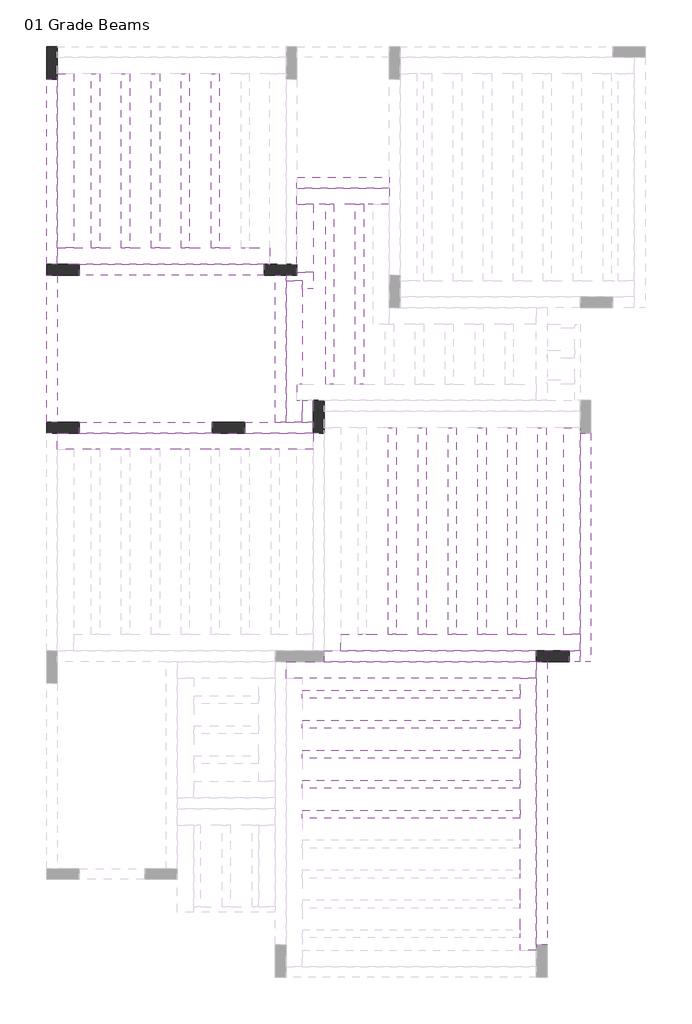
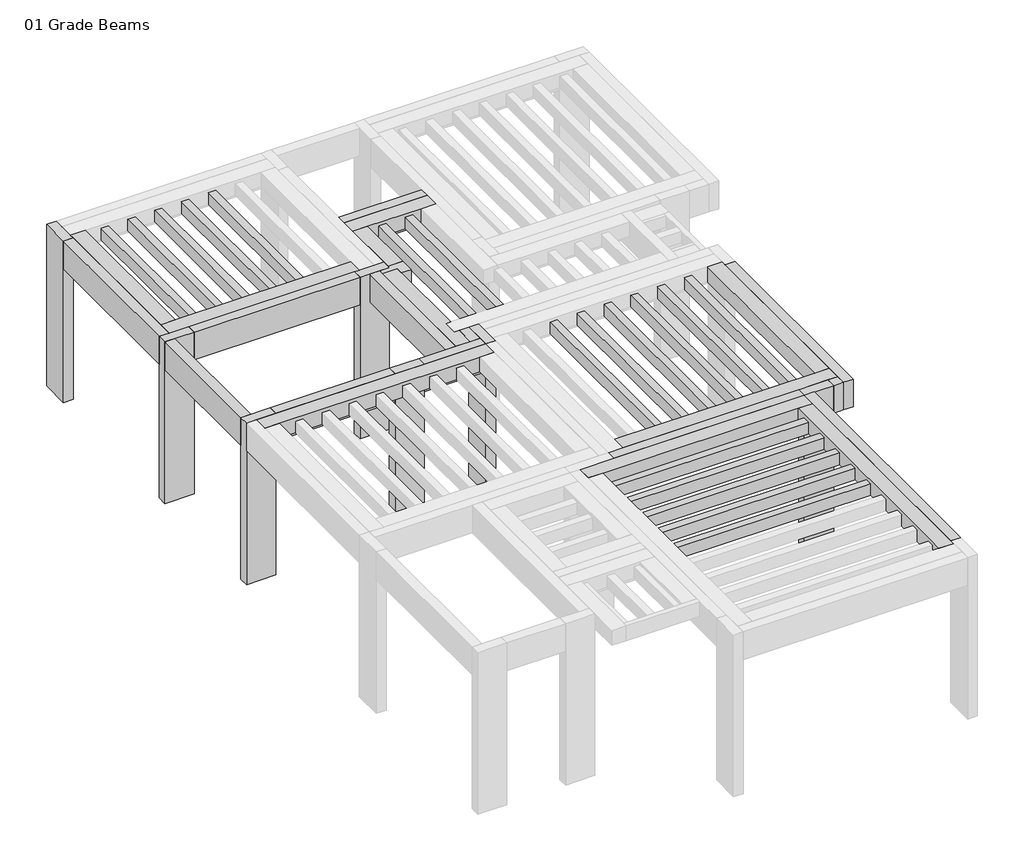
# One storey, part 2 of 3: 41 beams, 7 columns.
"""IFC4 building model written with IfcOpenShell, lengths in millimetres."""

from ifc_helpers import new_model, si_unit, frame, origin, origin_with_axes, place, context, project, spatial, polyline, outline, extrude, faceted_brep, element, save

model = new_model("IFC4")

# Units and contexts
model_context = context("Model", 3, world=origin())
ifc_project = project(units=[si_unit("LENGTHUNIT", "METRE", prefix="MILLI")], contexts=[model_context])

# Site, building, storey
site = spatial("IfcSite", under=ifc_project)
building = spatial("IfcBuilding", under=site)
storey = spatial("IfcBuildingStorey", under=building, Name="01 Grade Beams", Elevation=0.0)

# Beams
placement = place(None, origin())
element("IfcBeam", 1, ObjectType="M_Concrete-Rectangular Beam : DB1- 20 x 60 cm", at=placement, inside=storey, context=model_context, shape_type="Brep", body=[
    faceted_brep([(-5601.9262989, 7644.9958345, 3500.0), (-5801.9262989, 7644.9958345, 3500.0), (-5801.9262989, 4244.9958345, 3500.0), (-5601.9262989, 4244.9958345, 3500.0), (-5601.9262989, 4544.9958345, 3500.0), (-5801.9262989, 7644.9958345, 2900.0), (-5801.9262989, 4244.9958345, 2900.0), (-5601.9262989, 7644.9958345, 2900.0), (-5601.9262989, 4244.9958345, 2900.0), (-5601.9262989, 4244.9958345, 3180.0)], [[[0, 1, 2, 3, 4]], [[1, 5, 6, 2]], [[5, 7, 8, 6]], [[7, 0, 4, 3, 9, 8]], [[1, 0, 7, 5]], [[3, 2, 6, 8, 9]]]),
])
element("IfcBeam", 2, ObjectType="M_Concrete-Rectangular Beam : DB1- 20 x 60 cm", at=placement, inside=storey, context=model_context, shape_type="SweptSolid", body=[
    extrude(outline(polyline([(-1801.9262989, 4244.9958345), (-1801.9262989, 4044.9958345), (-5201.9262989, 4044.9958345), (-5201.9262989, 4244.9958345), (-1801.9262989, 4244.9958345)])), frame((0.0, 0.0, 2900.0), z_axis=(0.0, 0.0, 1.0), x_axis=(1.0, 0.0, 0.0)), (0.0, 0.0, 1.0), 600.0),
])
element("IfcBeam", 3, ObjectType="M_Concrete-Rectangular Beam : DB1- 20 x 60 cm", at=placement, inside=storey, context=model_context, shape_type="SweptSolid", body=[
    extrude(outline(polyline([(-5201.9262989, 1144.9958345), (-5201.9262989, 1344.9958345), (-2759.8125017, 1344.9958345), (-2759.8125017, 1144.9958345), (-5201.9262989, 1144.9958345)])), frame((0.0, 0.0, 2900.0), z_axis=(0.0, 0.0, 1.0), x_axis=(1.0, 0.0, 0.0)), (0.0, 0.0, 1.0), 600.0),
])
element("IfcBeam", 4, ObjectType="M_Concrete-Rectangular Beam : DB1- 20 x 60 cm", at=placement, inside=storey, context=model_context, shape_type="Brep", body=[
    faceted_brep([(-2159.8125017, 1344.9958345, 3500.0), (-2159.8125017, 1144.9958345, 3500.0), (-901.9262989, 1144.9958345, 3500.0), (-901.9262989, 1344.9958345, 3500.0), (-1101.9262989, 1344.9958345, 3500.0), (-1401.9262989, 1344.9958345, 3500.0), (-1601.9262989, 1344.9958345, 3500.0), (-2159.8125017, 1144.9958345, 2900.0), (-901.9262989, 1144.9958345, 2900.0), (-901.9262989, 1144.9958345, 3180.0), (-2159.8125017, 1344.9958345, 2900.0), (-1601.9262989, 1344.9958345, 2900.0), (-1401.9262989, 1344.9958345, 2900.0), (-901.9262989, 1344.9958345, 2900.0), (-901.9262989, 1344.9958345, 3180.0)], [[[0, 1, 2, 3, 4, 5, 6]], [[1, 7, 8, 9, 2]], [[7, 10, 11, 12, 13, 8]], [[10, 0, 6, 5, 4, 3, 14, 13, 12, 11]], [[1, 0, 10, 7]], [[3, 2, 9, 8, 13, 14]]]),
])
element("IfcBeam", 5, ObjectType="M_Concrete-Rectangular Beam : DB1- 20 x 60 cm", at=placement, inside=storey, context=model_context, shape_type="Brep", body=[
    faceted_brep([(-1401.9262989, 4044.9958345, 3500.0), (-1601.9262989, 4044.9958345, 3500.0), (-1601.9262989, 1344.9958345, 3500.0), (-1401.9262989, 1344.9958345, 3500.0), (-1401.9262989, 3944.9958345, 3500.0), (-1601.9262989, 4044.9958345, 2900.0), (-1601.9262989, 1344.9958345, 2900.0), (-1401.9262989, 4044.9958345, 2900.0), (-1401.9262989, 1344.9958345, 2900.0), (-1401.9262989, 1344.9958345, 3180.0), (-1401.9262989, 4044.9958345, 3180.0)], [[[0, 1, 2, 3, 4]], [[1, 5, 6, 2]], [[5, 7, 8, 6]], [[3, 9, 8, 7, 10, 0, 4]], [[0, 10, 7, 5, 1]], [[3, 2, 6, 8, 9]]]),
])
element("IfcBeam", 6, ObjectType="M_Concrete-Rectangular Beam : DB1- 20 x 60 cm", at=placement, inside=storey, context=model_context, shape_type="SweptSolid", body=[
    extrude(outline(polyline([(-5801.9262989, 4044.9958345), (-5601.9262989, 4044.9958345), (-5601.9262989, 1344.9958345), (-5801.9262989, 1344.9958345), (-5801.9262989, 4044.9958345)])), frame((0.0, 0.0, 2900.0), z_axis=(0.0, 0.0, 1.0), x_axis=(1.0, 0.0, 0.0)), (0.0, 0.0, 1.0), 600.0),
])
element("IfcBeam", 7, ObjectType="M_Concrete-Rectangular Beam : DB1- 20 x 60 cm", at=placement, inside=storey, context=model_context, shape_type="Brep", body=[
    faceted_brep([(3398.0737011, -3055.0041655, 3500.0), (3198.0737011, -3055.0041655, 3500.0), (3198.0737011, -3355.0041655, 3500.0), (3198.0737011, -8255.0041655, 3500.0), (3398.0737011, -8255.0041655, 3500.0), (3398.0737011, -3055.0041655, 2900.0), (3398.0737011, -8255.0041655, 2900.0), (3198.0737011, -3055.0041655, 2900.0), (3198.0737011, -8255.0041655, 2900.0), (3198.0737011, -3055.0041655, 3180.0)], [[[0, 1, 2, 3, 4]], [[5, 0, 4, 6]], [[7, 5, 6, 8]], [[1, 9, 7, 8, 3, 2]], [[1, 0, 5, 7, 9]], [[4, 3, 8, 6]]]),
])
element("IfcBeam", 8, ObjectType="M_Concrete-Rectangular Beam : DB1- 20 x 60 cm", at=placement, inside=storey, context=model_context, shape_type="Brep", body=[
    faceted_brep([(3998.0737011, -3055.0041655, 3500.0), (4198.0737011, -3055.0041655, 3500.0), (4198.0737011, 1144.9958345, 3500.0), (3998.0737011, 1144.9958345, 3500.0), (3998.0737011, -2555.0041655, 3500.0), (3998.0737011, -2855.0041655, 3500.0), (3998.0737011, -3055.0041655, 2900.0), (3998.0737011, 1144.9958345, 2900.0), (3998.0737011, -2855.0041655, 2900.0), (4198.0737011, -3055.0041655, 2900.0), (4198.0737011, 1144.9958345, 2900.0)], [[[0, 1, 2, 3, 4, 5]], [[6, 0, 5, 4, 3, 7, 8]], [[9, 6, 8, 7, 10]], [[1, 9, 10, 2]], [[1, 0, 6, 9]], [[3, 2, 10, 7]]]),
])
element("IfcBeam", 9, ObjectType="M_Concrete-Rectangular Beam : DB1- 20 x 60 cm", at=placement, inside=storey, context=model_context, shape_type="Brep", body=[
    faceted_brep([(-1201.9262989, 5844.9958345, 3500.0), (-1201.9262989, 5644.9958345, 3500.0), (498.0737011, 5644.9958345, 3500.0), (498.0737011, 5844.9958345, 3500.0), (-1201.9262989, 5844.9958345, 2900.0), (-1201.9262989, 5844.9958345, 3180.0), (-1201.9262989, 5844.9958345, 3330.0), (498.0737011, 5844.9958345, 3330.0), (498.0737011, 5844.9958345, 3180.0), (498.0737011, 5844.9958345, 2900.0), (-1201.9262989, 5644.9958345, 2900.0), (498.0737011, 5644.9958345, 2900.0), (-1201.9262989, 5644.9958345, 3180.0), (498.0737011, 5644.9958345, 3180.0)], [[[0, 1, 2, 3]], [[4, 5, 6, 0, 3, 7, 8, 9]], [[10, 4, 9, 11]], [[1, 12, 10, 11, 13, 2]], [[1, 0, 6, 5, 4, 10, 12]], [[3, 2, 13, 11, 9, 8, 7]]]),
])
element("IfcBeam", 10, ObjectType="M_Concrete-Rectangular Beam : DB2- 20 x 60 cm", at=placement, inside=storey, context=model_context, shape_type="Brep", body=[
    faceted_brep([(3198.0737011, -3055.0041655, 3500.0), (3198.0737011, -2855.0041655, 3500.0), (-401.9262989, -2855.0041655, 3500.0), (-701.9262989, -2855.0041655, 3500.0), (-701.9262989, -3055.0041655, 3500.0), (-701.9262989, -2855.0041655, 2900.0), (-701.9262989, -2855.0041655, 3180.0), (3198.0737011, -2855.0041655, 2900.0), (3198.0737011, -3055.0041655, 2900.0), (-701.9262989, -3055.0041655, 2900.0), (3198.0737011, -3055.0041655, 3180.0)], [[[0, 1, 2, 3, 4]], [[5, 6, 3, 2, 1, 7]], [[7, 8, 9, 5]], [[8, 10, 0, 4, 9]], [[0, 10, 8, 7, 1]], [[4, 3, 6, 5, 9]]]),
])
element("IfcBeam", 11, ObjectType="M_Concrete-Rectangular Beam : DBC- 20 x 60 cm", at=placement, inside=storey, context=model_context, shape_type="Brep", body=[
    faceted_brep([(3998.0737011, -3055.0041655, 3500.0), (3998.0737011, -2855.0041655, 3500.0), (3798.0737011, -2855.0041655, 3500.0), (3798.0737011, -3055.0041655, 3500.0), (3998.0737011, -3055.0041655, 2900.0), (3798.0737011, -3055.0041655, 2900.0), (3998.0737011, -2855.0041655, 2900.0), (3798.0737011, -2855.0041655, 2900.0), (3998.0737011, -2855.0041655, 3180.0)], [[[0, 1, 2, 3]], [[4, 0, 3, 5]], [[6, 4, 5, 7]], [[1, 8, 6, 7, 2]], [[1, 0, 4, 6, 8]], [[3, 2, 7, 5]]]),
])
element("IfcBeam", 12, ObjectType="M_Concrete-Rectangular Beam : P- 30 x 32 cm", at=placement, inside=storey, context=model_context, shape_type="Brep", body=[
    faceted_brep([(-5601.9262989, 4544.9958345, 3500.0), (-5601.9262989, 4244.9958345, 3500.0), (-5201.9262989, 4244.9958345, 3500.0), (-1801.9262989, 4244.9958345, 3500.0), (-1701.9262989, 4244.9958345, 3500.0), (-1701.9262989, 4544.9958345, 3500.0), (-5301.9262989, 4544.9958345, 3500.0), (-5601.9262989, 4544.9958345, 3180.0), (-1701.9262989, 4544.9958345, 3430.0), (-1701.9262989, 4544.9958345, 3180.0), (-2076.9262989, 4544.9958345, 3180.0), (-2226.9262989, 4544.9958345, 3180.0), (-2626.9262989, 4544.9958345, 3180.0), (-2776.9262989, 4544.9958345, 3180.0), (-3176.9262989, 4544.9958345, 3180.0), (-3326.9262989, 4544.9958345, 3180.0), (-3726.9262989, 4544.9958345, 3180.0), (-3876.9262989, 4544.9958345, 3180.0), (-4276.9262989, 4544.9958345, 3180.0), (-4426.9262989, 4544.9958345, 3180.0), (-4826.9262989, 4544.9958345, 3180.0), (-4976.9262989, 4544.9958345, 3180.0), (-5301.9262989, 4544.9958345, 3180.0), (-5601.9262989, 4244.9958345, 3180.0), (-1701.9262989, 4244.9958345, 3180.0)], [[[0, 1, 2, 3, 4, 5, 6]], [[7, 0, 6, 5, 8, 9, 10, 11, 12, 13, 14, 15, 16, 17, 18, 19, 20, 21, 22]], [[23, 7, 22, 21, 20, 19, 18, 17, 16, 15, 14, 13, 12, 11, 10, 9, 24]], [[1, 23, 24, 4, 3, 2]], [[5, 4, 24, 9, 8]], [[1, 0, 7, 23]]]),
])
element("IfcBeam", 13, ObjectType="M_Concrete-Rectangular Beam : P- 30 x 32 cm", at=placement, inside=storey, context=model_context, shape_type="Brep", body=[
    faceted_brep([(-5601.9262989, 4544.9958345, 3500.0), (-5301.9262989, 4544.9958345, 3500.0), (-5301.9262989, 7744.9958345, 3500.0), (-5601.9262989, 7744.9958345, 3500.0), (-5601.9262989, 7644.9958345, 3500.0), (-5301.9262989, 4544.9958345, 3430.0), (-5301.9262989, 4544.9958345, 3180.0), (-5301.9262989, 7744.9958345, 3180.0), (-5301.9262989, 7744.9958345, 3430.0), (-5601.9262989, 4544.9958345, 3180.0), (-5601.9262989, 7744.9958345, 3180.0)], [[[0, 1, 2, 3, 4]], [[1, 5, 6, 7, 8, 2]], [[6, 9, 10, 7]], [[9, 0, 4, 3, 10]], [[1, 0, 9, 6, 5]], [[3, 2, 8, 7, 10]]]),
])
element("IfcBeam", 14, ObjectType="M_Concrete-Rectangular Beam : P- 30 x 32 cm", at=placement, inside=storey, context=model_context, shape_type="Brep", body=[
    faceted_brep([(3998.0737011, -2855.0041655, 3500.0), (3998.0737011, -2555.0041655, 3500.0), (3698.0737011, -2555.0041655, 3500.0), (-401.9262989, -2555.0041655, 3500.0), (-401.9262989, -2855.0041655, 3500.0), (3198.0737011, -2855.0041655, 3500.0), (3798.0737011, -2855.0041655, 3500.0), (3998.0737011, -2855.0041655, 3180.0), (-401.9262989, -2855.0041655, 3180.0), (3998.0737011, -2555.0041655, 3180.0), (-401.9262989, -2555.0041655, 3180.0), (-76.9262989, -2555.0041655, 3180.0), (73.0737011, -2555.0041655, 3180.0), (473.0737011, -2555.0041655, 3180.0), (623.0737011, -2555.0041655, 3180.0), (1023.0737011, -2555.0041655, 3180.0), (1173.0737011, -2555.0041655, 3180.0), (1573.0737011, -2555.0041655, 3180.0), (1723.0737011, -2555.0041655, 3180.0), (2123.0737011, -2555.0041655, 3180.0), (2273.0737011, -2555.0041655, 3180.0), (2673.0737011, -2555.0041655, 3180.0), (2823.0737011, -2555.0041655, 3180.0), (3223.0737011, -2555.0041655, 3180.0), (3373.0737011, -2555.0041655, 3180.0), (3698.0737011, -2555.0041655, 3180.0), (-401.9262989, -2555.0041655, 3430.0)], [[[0, 1, 2, 3, 4, 5, 6]], [[7, 0, 6, 5, 4, 8]], [[9, 7, 8, 10, 11, 12, 13, 14, 15, 16, 17, 18, 19, 20, 21, 22, 23, 24, 25]], [[1, 9, 25, 24, 23, 22, 21, 20, 19, 18, 17, 16, 15, 14, 13, 12, 11, 10, 26, 3, 2]], [[4, 3, 26, 10, 8]], [[1, 0, 7, 9]]]),
])
element("IfcBeam", 15, ObjectType="M_Concrete-Rectangular Beam : P- 30 x 32 cm", at=placement, inside=storey, context=model_context, shape_type="Brep", body=[
    faceted_brep([(3698.0737011, -2555.0041655, 3500.0), (3998.0737011, -2555.0041655, 3500.0), (3998.0737011, 1144.9958345, 3500.0), (3998.0737011, 1244.9958345, 3500.0), (3698.0737011, 1244.9958345, 3500.0), (3998.0737011, -2555.0041655, 3180.0), (3998.0737011, 1244.9958345, 3180.0), (3698.0737011, -2555.0041655, 3180.0), (3698.0737011, 1244.9958345, 3180.0), (3698.0737011, -2555.0041655, 3430.0), (3698.0737011, 1244.9958345, 3430.0)], [[[0, 1, 2, 3, 4]], [[1, 5, 6, 3, 2]], [[5, 7, 8, 6]], [[7, 9, 0, 4, 10, 8]], [[1, 0, 9, 7, 5]], [[4, 3, 6, 8, 10]]]),
])
element("IfcBeam", 16, ObjectType="M_Concrete-Rectangular Beam : P- 30 x 32 cm", at=placement, inside=storey, context=model_context, shape_type="Brep", body=[
    faceted_brep([(-5601.9262989, 1144.9958345, 3500.0), (-5601.9262989, 844.9958345, 3500.0), (-5301.9262989, 844.9958345, 3500.0), (-1201.9262989, 844.9958345, 3500.0), (-901.9262989, 844.9958345, 3500.0), (-901.9262989, 1144.9958345, 3500.0), (-2159.8125017, 1144.9958345, 3500.0), (-2759.8125017, 1144.9958345, 3500.0), (-5201.9262989, 1144.9958345, 3500.0), (-5601.9262989, 1144.9958345, 3180.0), (-901.9262989, 1144.9958345, 3180.0), (-5601.9262989, 844.9958345, 3180.0), (-901.9262989, 844.9958345, 3180.0), (-1201.9262989, 844.9958345, 3180.0), (-1526.9262989, 844.9958345, 3180.0), (-1676.9262989, 844.9958345, 3180.0), (-2076.9262989, 844.9958345, 3180.0), (-2226.9262989, 844.9958345, 3180.0), (-2626.9262989, 844.9958345, 3180.0), (-2776.9262989, 844.9958345, 3180.0), (-3176.9262989, 844.9958345, 3180.0), (-3326.9262989, 844.9958345, 3180.0), (-3726.9262989, 844.9958345, 3180.0), (-3876.9262989, 844.9958345, 3180.0), (-4276.9262989, 844.9958345, 3180.0), (-4426.9262989, 844.9958345, 3180.0), (-4826.9262989, 844.9958345, 3180.0), (-4976.9262989, 844.9958345, 3180.0), (-5301.9262989, 844.9958345, 3180.0)], [[[0, 1, 2, 3, 4, 5, 6, 7, 8]], [[9, 0, 8, 7, 6, 5, 10]], [[11, 9, 10, 12, 13, 14, 15, 16, 17, 18, 19, 20, 21, 22, 23, 24, 25, 26, 27, 28]], [[1, 11, 28, 27, 26, 25, 24, 23, 22, 21, 20, 19, 18, 17, 16, 15, 14, 13, 12, 4, 3, 2]], [[1, 0, 9, 11]], [[5, 4, 12, 10]]]),
])
element("IfcBeam", 17, ObjectType="M_Concrete-Rectangular Beam : P- 30 x 32 cm", at=placement, inside=storey, context=model_context, shape_type="Brep", body=[
    faceted_brep([(-1401.9262989, -3055.0041655, 3500.0), (-1401.9262989, -3355.0041655, 3500.0), (-1101.9262989, -3355.0041655, 3500.0), (2898.0737011, -3355.0041655, 3500.0), (3198.0737011, -3355.0041655, 3500.0), (3198.0737011, -3055.0041655, 3500.0), (-701.9262989, -3055.0041655, 3500.0), (-1401.9262989, -3055.0041655, 3180.0), (3198.0737011, -3055.0041655, 3180.0), (-1401.9262989, -3355.0041655, 3180.0), (3198.0737011, -3355.0041655, 3180.0), (2898.0737011, -3355.0041655, 3180.0), (-1101.9262989, -3355.0041655, 3180.0)], [[[0, 1, 2, 3, 4, 5, 6]], [[7, 0, 6, 5, 8]], [[9, 7, 8, 10, 11, 12]], [[1, 9, 12, 11, 10, 4, 3, 2]], [[1, 0, 7, 9]], [[5, 4, 10, 8]]]),
])
element("IfcBeam", 18, ObjectType="M_Concrete-Rectangular Beam : P- 30 x 32 cm", at=placement, inside=storey, context=model_context, shape_type="Brep", body=[
    faceted_brep([(3198.0737011, -3355.0041655, 3500.0), (2898.0737011, -3355.0041655, 3500.0), (2898.0737011, -8355.0041655, 3500.0), (3198.0737011, -8355.0041655, 3500.0), (3198.0737011, -8255.0041655, 3500.0), (3198.0737011, -3355.0041655, 3180.0), (3198.0737011, -8355.0041655, 3180.0), (2898.0737011, -3355.0041655, 3180.0), (2898.0737011, -8355.0041655, 3180.0), (2898.0737011, -8130.0041655, 3180.0), (2898.0737011, -7980.0041655, 3180.0), (2898.0737011, -7580.0041655, 3180.0), (2898.0737011, -7430.0041655, 3180.0), (2898.0737011, -7030.0041655, 3180.0), (2898.0737011, -6880.0041655, 3180.0), (2898.0737011, -6480.0041655, 3180.0), (2898.0737011, -6330.0041655, 3180.0), (2898.0737011, -5930.0041655, 3180.0), (2898.0737011, -5780.0041655, 3180.0), (2898.0737011, -5380.0041655, 3180.0), (2898.0737011, -5230.0041655, 3180.0), (2898.0737011, -4830.0041655, 3180.0), (2898.0737011, -4680.0041655, 3180.0), (2898.0737011, -4280.0041655, 3180.0), (2898.0737011, -4130.0041655, 3180.0), (2898.0737011, -3730.0041655, 3180.0), (2898.0737011, -3580.0041655, 3180.0), (2898.0737011, -3355.0041655, 3430.0), (2898.0737011, -8355.0041655, 3430.0)], [[[0, 1, 2, 3, 4]], [[5, 0, 4, 3, 6]], [[7, 5, 6, 8, 9, 10, 11, 12, 13, 14, 15, 16, 17, 18, 19, 20, 21, 22, 23, 24, 25, 26]], [[1, 27, 7, 26, 25, 24, 23, 22, 21, 20, 19, 18, 17, 16, 15, 14, 13, 12, 11, 10, 9, 8, 28, 2]], [[1, 0, 5, 7, 27]], [[3, 2, 28, 8, 6]]]),
])
element("IfcBeam", 19, ObjectType="M_Concrete-Rectangular Beam : P- 30 x 32 cm", at=placement, inside=storey, context=model_context, shape_type="Brep", body=[
    faceted_brep([(498.0737011, 5344.9958345, 3500.0), (498.0737011, 5644.9958345, 3500.0), (-1201.9262989, 5644.9958345, 3500.0), (-1201.9262989, 5344.9958345, 3500.0), (-901.9262989, 5344.9958345, 3500.0), (198.0737011, 5344.9958345, 3500.0), (498.0737011, 5344.9958345, 3180.0), (-1201.9262989, 5344.9958345, 3180.0), (-901.9262989, 5344.9958345, 3180.0), (-676.9262989, 5344.9958345, 3180.0), (-526.9262989, 5344.9958345, 3180.0), (-126.9262989, 5344.9958345, 3180.0), (23.0737011, 5344.9958345, 3180.0), (198.0737011, 5344.9958345, 3180.0), (498.0737011, 5644.9958345, 3180.0), (-1201.9262989, 5644.9958345, 3180.0)], [[[0, 1, 2, 3, 4, 5]], [[6, 0, 5, 4, 3, 7, 8, 9, 10, 11, 12, 13]], [[14, 6, 13, 12, 11, 10, 9, 8, 7, 15]], [[1, 14, 15, 2]], [[1, 0, 6, 14]], [[3, 2, 15, 7]]]),
])
element("IfcBeam", 20, ObjectType="M_Concrete-Rectangular Beam : P- 30 x 32 cm", at=placement, inside=storey, context=model_context, shape_type="Brep", body=[
    faceted_brep([(-1101.9262989, 3944.9958345, 3500.0), (-1401.9262989, 3944.9958345, 3500.0), (-1401.9262989, 1344.9958345, 3500.0), (-1101.9262989, 1344.9958345, 3500.0), (-1101.9262989, 1744.9958345, 3500.0), (-1201.9262989, 1744.9958345, 3500.0), (-1201.9262989, 2044.9958345, 3500.0), (-1101.9262989, 2044.9958345, 3500.0), (-1101.9262989, 3794.9958345, 3500.0), (-1101.9262989, 1344.9958345, 3180.0), (-1101.9262989, 1744.9958345, 3180.0), (-1401.9262989, 3944.9958345, 3180.0), (-1101.9262989, 3944.9958345, 3180.0), (-1101.9262989, 3794.9958345, 3180.0), (-1101.9262989, 2044.9958345, 3180.0), (-1201.9262989, 2044.9958345, 3180.0), (-1201.9262989, 1744.9958345, 3180.0), (-1401.9262989, 1344.9958345, 3180.0), (-1101.9262989, 2044.9958345, 3430.0)], [[[0, 1, 2, 3, 4, 5, 6, 7, 8]], [[3, 9, 10, 4]], [[11, 12, 13, 14, 15, 16, 10, 9, 17]], [[1, 11, 17, 2]], [[1, 0, 12, 11]], [[3, 2, 17, 9]], [[6, 15, 14, 18, 7]], [[16, 5, 4, 10]], [[15, 6, 5, 16]], [[12, 0, 8, 7, 18, 14, 13]]]),
])
element("IfcBeam", 21, ObjectType="M_Concrete-Rectangular Beam : P- 30 x 32 cm", at=placement, inside=storey, context=model_context, shape_type="Brep", body=[
    faceted_brep([(-1101.9262989, 3944.9958345, 3500.0), (-1101.9262989, 3794.9958345, 3500.0), (-901.9262989, 3794.9958345, 3500.0), (-901.9262989, 4094.9958345, 3500.0), (-1201.9262989, 4094.9958345, 3500.0), (-1201.9262989, 4044.9958345, 3500.0), (-1401.9262989, 4044.9958345, 3500.0), (-1401.9262989, 3944.9958345, 3500.0), (-901.9262989, 4094.9958345, 3430.0), (-901.9262989, 4094.9958345, 3180.0), (-1201.9262989, 4094.9958345, 3180.0), (-1101.9262989, 3794.9958345, 3180.0), (-1101.9262989, 3944.9958345, 3180.0), (-1401.9262989, 3944.9958345, 3180.0), (-1401.9262989, 4044.9958345, 3180.0), (-1201.9262989, 4044.9958345, 3180.0), (-901.9262989, 3794.9958345, 3180.0), (-1101.9262989, 3794.9958345, 3430.0), (-901.9262989, 3794.9958345, 3430.0)], [[[0, 1, 2, 3, 4, 5, 6, 7]], [[4, 3, 8, 9, 10]], [[11, 12, 13, 14, 15, 10, 9, 16]], [[2, 1, 17, 11, 16, 18]], [[13, 7, 6, 14]], [[1, 0, 12, 11, 17]], [[3, 2, 18, 16, 9, 8]], [[12, 0, 7, 13]], [[5, 15, 14, 6]], [[15, 5, 4, 10]]]),
])
element("IfcBeam", 22, ObjectType="M_Concrete-Rectangular Beam : P- 30 x 32 cm", at=placement, inside=storey, context=model_context, shape_type="Brep", body=[
    faceted_brep([(-1201.9262989, 4094.9958345, 3500.0), (-901.9262989, 4094.9958345, 3500.0), (-901.9262989, 5344.9958345, 3500.0), (-1201.9262989, 5344.9958345, 3500.0), (-1201.9262989, 4244.9958345, 3500.0), (-901.9262989, 4094.9958345, 3430.0), (-901.9262989, 4094.9958345, 3180.0), (-901.9262989, 5344.9958345, 3180.0), (-901.9262989, 5344.9958345, 3430.0), (-1201.9262989, 4094.9958345, 3180.0), (-1201.9262989, 5344.9958345, 3180.0)], [[[0, 1, 2, 3, 4]], [[2, 1, 5, 6, 7, 8]], [[6, 9, 10, 7]], [[9, 0, 4, 3, 10]], [[1, 0, 9, 6, 5]], [[3, 2, 8, 7, 10]]]),
])
element("IfcBeam", 23, ObjectType="M_Concrete-Rectangular Beam : P- 30 x 32 cm", at=placement, inside=storey, context=model_context, shape_type="SweptSolid", body=[
    extrude(outline(polyline([(-901.9262989, 1744.9958345), (-901.9262989, 1344.9958345), (-1101.9262989, 1344.9958345), (-1101.9262989, 1744.9958345), (-901.9262989, 1744.9958345)])), frame((0.0, 0.0, 3180.0), z_axis=(0.0, 0.0, 1.0), x_axis=(1.0, 0.0, 0.0)), (0.0, 0.0, 1.0), 320.0),
])
element("IfcBeam", 24, ObjectType="M_Pan Joist : RB1- 32 x 15", at=placement, inside=storey, context=model_context, shape_type="SweptSolid", body=[
    extrude(outline(polyline([(-4976.9262989, 7744.9958345), (-4826.9262989, 7744.9958345), (-4826.9262989, 4544.9958345), (-4976.9262989, 4544.9958345), (-4976.9262989, 7744.9958345)])), frame((0.0, 0.0, 3180.0), z_axis=(0.0, 0.0, 1.0), x_axis=(1.0, 0.0, 0.0)), (0.0, 0.0, 1.0), 250.0),
])
element("IfcBeam", 25, ObjectType="M_Pan Joist : RB1- 32 x 15", at=placement, inside=storey, context=model_context, shape_type="SweptSolid", body=[
    extrude(outline(polyline([(-4426.9262989, 7744.9958345), (-4276.9262989, 7744.9958345), (-4276.9262989, 4544.9958345), (-4426.9262989, 4544.9958345), (-4426.9262989, 7744.9958345)])), frame((0.0, 0.0, 3180.0), z_axis=(0.0, 0.0, 1.0), x_axis=(1.0, 0.0, 0.0)), (0.0, 0.0, 1.0), 250.0),
])
element("IfcBeam", 26, ObjectType="M_Pan Joist : RB1- 32 x 15", at=placement, inside=storey, context=model_context, shape_type="SweptSolid", body=[
    extrude(outline(polyline([(-3876.9262989, 7744.9958345), (-3726.9262989, 7744.9958345), (-3726.9262989, 4544.9958345), (-3876.9262989, 4544.9958345), (-3876.9262989, 7744.9958345)])), frame((0.0, 0.0, 3180.0), z_axis=(0.0, 0.0, 1.0), x_axis=(1.0, 0.0, 0.0)), (0.0, 0.0, 1.0), 250.0),
])
element("IfcBeam", 27, ObjectType="M_Pan Joist : RB1- 32 x 15", at=placement, inside=storey, context=model_context, shape_type="SweptSolid", body=[
    extrude(outline(polyline([(-3326.9262989, 7744.9958345), (-3176.9262989, 7744.9958345), (-3176.9262989, 4544.9958345), (-3326.9262989, 4544.9958345), (-3326.9262989, 7744.9958345)])), frame((0.0, 0.0, 3180.0), z_axis=(0.0, 0.0, 1.0), x_axis=(1.0, 0.0, 0.0)), (0.0, 0.0, 1.0), 250.0),
])
element("IfcBeam", 28, ObjectType="M_Pan Joist : RB1- 32 x 15", at=placement, inside=storey, context=model_context, shape_type="SweptSolid", body=[
    extrude(outline(polyline([(-2776.9262989, 7744.9958345), (-2626.9262989, 7744.9958345), (-2626.9262989, 4544.9958345), (-2776.9262989, 4544.9958345), (-2776.9262989, 7744.9958345)])), frame((0.0, 0.0, 3180.0), z_axis=(0.0, 0.0, 1.0), x_axis=(1.0, 0.0, 0.0)), (0.0, 0.0, 1.0), 250.0),
])
element("IfcBeam", 29, ObjectType="M_Pan Joist : RB1- 32 x 15", at=placement, inside=storey, context=model_context, shape_type="SweptSolid", body=[
    extrude(outline(polyline([(-1101.9262989, -5930.0041655), (-1101.9262989, -5780.0041655), (2898.0737011, -5780.0041655), (2898.0737011, -5930.0041655), (-1101.9262989, -5930.0041655)])), frame((0.0, 0.0, 3180.0), z_axis=(0.0, 0.0, 1.0), x_axis=(1.0, 0.0, 0.0)), (0.0, 0.0, 1.0), 250.0),
])
element("IfcBeam", 30, ObjectType="M_Pan Joist : RB1- 32 x 15", at=placement, inside=storey, context=model_context, shape_type="SweptSolid", body=[
    extrude(outline(polyline([(-1101.9262989, -5380.0041655), (-1101.9262989, -5230.0041655), (2898.0737011, -5230.0041655), (2898.0737011, -5380.0041655), (-1101.9262989, -5380.0041655)])), frame((0.0, 0.0, 3180.0), z_axis=(0.0, 0.0, 1.0), x_axis=(1.0, 0.0, 0.0)), (0.0, 0.0, 1.0), 250.0),
])
element("IfcBeam", 31, ObjectType="M_Pan Joist : RB1- 32 x 15", at=placement, inside=storey, context=model_context, shape_type="SweptSolid", body=[
    extrude(outline(polyline([(-1101.9262989, -4830.0041655), (-1101.9262989, -4680.0041655), (2898.0737011, -4680.0041655), (2898.0737011, -4830.0041655), (-1101.9262989, -4830.0041655)])), frame((0.0, 0.0, 3180.0), z_axis=(0.0, 0.0, 1.0), x_axis=(1.0, 0.0, 0.0)), (0.0, 0.0, 1.0), 250.0),
])
element("IfcBeam", 32, ObjectType="M_Pan Joist : RB1- 32 x 15", at=placement, inside=storey, context=model_context, shape_type="SweptSolid", body=[
    extrude(outline(polyline([(-1101.9262989, -4280.0041655), (-1101.9262989, -4130.0041655), (2898.0737011, -4130.0041655), (2898.0737011, -4280.0041655), (-1101.9262989, -4280.0041655)])), frame((0.0, 0.0, 3180.0), z_axis=(0.0, 0.0, 1.0), x_axis=(1.0, 0.0, 0.0)), (0.0, 0.0, 1.0), 250.0),
])
element("IfcBeam", 33, ObjectType="M_Pan Joist : RB1- 32 x 15", at=placement, inside=storey, context=model_context, shape_type="SweptSolid", body=[
    extrude(outline(polyline([(-1101.9262989, -3730.0041655), (-1101.9262989, -3580.0041655), (2898.0737011, -3580.0041655), (2898.0737011, -3730.0041655), (-1101.9262989, -3730.0041655)])), frame((0.0, 0.0, 3180.0), z_axis=(0.0, 0.0, 1.0), x_axis=(1.0, 0.0, 0.0)), (0.0, 0.0, 1.0), 250.0),
])
element("IfcBeam", 34, ObjectType="M_Pan Joist : RB1- 32 x 15", at=placement, inside=storey, context=model_context, shape_type="SweptSolid", body=[
    extrude(outline(polyline([(3223.0737011, 1244.9958345), (3373.0737011, 1244.9958345), (3373.0737011, -2555.0041655), (3223.0737011, -2555.0041655), (3223.0737011, 1244.9958345)])), frame((0.0, 0.0, 3180.0), z_axis=(0.0, 0.0, 1.0), x_axis=(1.0, 0.0, 0.0)), (0.0, 0.0, 1.0), 250.0),
])
element("IfcBeam", 35, ObjectType="M_Pan Joist : RB1- 32 x 15", at=placement, inside=storey, context=model_context, shape_type="SweptSolid", body=[
    extrude(outline(polyline([(2673.0737011, 1244.9958345), (2823.0737011, 1244.9958345), (2823.0737011, -2555.0041655), (2673.0737011, -2555.0041655), (2673.0737011, 1244.9958345)])), frame((0.0, 0.0, 3180.0), z_axis=(0.0, 0.0, 1.0), x_axis=(1.0, 0.0, 0.0)), (0.0, 0.0, 1.0), 250.0),
])
element("IfcBeam", 36, ObjectType="M_Pan Joist : RB1- 32 x 15", at=placement, inside=storey, context=model_context, shape_type="SweptSolid", body=[
    extrude(outline(polyline([(2123.0737011, 1244.9958345), (2273.0737011, 1244.9958345), (2273.0737011, -2555.0041655), (2123.0737011, -2555.0041655), (2123.0737011, 1244.9958345)])), frame((0.0, 0.0, 3180.0), z_axis=(0.0, 0.0, 1.0), x_axis=(1.0, 0.0, 0.0)), (0.0, 0.0, 1.0), 250.0),
])
element("IfcBeam", 37, ObjectType="M_Pan Joist : RB1- 32 x 15", at=placement, inside=storey, context=model_context, shape_type="SweptSolid", body=[
    extrude(outline(polyline([(1573.0737011, 1244.9958345), (1723.0737011, 1244.9958345), (1723.0737011, -2555.0041655), (1573.0737011, -2555.0041655), (1573.0737011, 1244.9958345)])), frame((0.0, 0.0, 3180.0), z_axis=(0.0, 0.0, 1.0), x_axis=(1.0, 0.0, 0.0)), (0.0, 0.0, 1.0), 250.0),
])
element("IfcBeam", 38, ObjectType="M_Pan Joist : RB1- 32 x 15", at=placement, inside=storey, context=model_context, shape_type="SweptSolid", body=[
    extrude(outline(polyline([(1023.0737011, 1244.9958345), (1173.0737011, 1244.9958345), (1173.0737011, -2555.0041655), (1023.0737011, -2555.0041655), (1023.0737011, 1244.9958345)])), frame((0.0, 0.0, 3180.0), z_axis=(0.0, 0.0, 1.0), x_axis=(1.0, 0.0, 0.0)), (0.0, 0.0, 1.0), 250.0),
])
element("IfcBeam", 39, ObjectType="M_Pan Joist : RB1- 32 x 15", at=placement, inside=storey, context=model_context, shape_type="SweptSolid", body=[
    extrude(outline(polyline([(473.0737011, 1244.9958345), (623.0737011, 1244.9958345), (623.0737011, -2555.0041655), (473.0737011, -2555.0041655), (473.0737011, 1244.9958345)])), frame((0.0, 0.0, 3180.0), z_axis=(0.0, 0.0, 1.0), x_axis=(1.0, 0.0, 0.0)), (0.0, 0.0, 1.0), 250.0),
])
element("IfcBeam", 40, ObjectType="M_Pan Joist : RB1- 32 x 15", at=placement, inside=storey, context=model_context, shape_type="SweptSolid", body=[
    extrude(outline(polyline([(-126.9262989, 5344.9958345), (23.0737011, 5344.9958345), (23.0737011, 2044.9958345), (-126.9262989, 2044.9958345), (-126.9262989, 5344.9958345)])), frame((0.0, 0.0, 3180.0), z_axis=(0.0, 0.0, 1.0), x_axis=(1.0, 0.0, 0.0)), (0.0, 0.0, 1.0), 250.0),
])
element("IfcBeam", 41, ObjectType="M_Pan Joist : RB1- 32 x 15", at=placement, inside=storey, context=model_context, shape_type="SweptSolid", body=[
    extrude(outline(polyline([(-676.9262989, 5344.9958345), (-526.9262989, 5344.9958345), (-526.9262989, 2044.9958345), (-676.9262989, 2044.9958345), (-676.9262989, 5344.9958345)])), frame((0.0, 0.0, 3180.0), z_axis=(0.0, 0.0, 1.0), x_axis=(1.0, 0.0, 0.0)), (0.0, 0.0, 1.0), 250.0),
])

# Columns
element("IfcColumn", 42, ObjectType="M_Concrete-Rectangular-Column : 20 x 60 cm", at=placement, inside=storey, context=model_context, shape_type="Brep", body=[
    faceted_brep([(-5601.9262989, 8244.9958345, 0.0), (-5601.9262989, 7644.9958345, 0.0), (-5801.9262989, 7644.9958345, 0.0), (-5801.9262989, 8244.9958345, 0.0), (-5601.9262989, 8244.9958345, 3500.0), (-5601.9262989, 7744.9958345, 3500.0), (-5601.9262989, 7644.9958345, 3500.0), (-5801.9262989, 7644.9958345, 3500.0), (-5801.9262989, 8244.9958345, 3500.0)], [[[0, 1, 2, 3]], [[4, 5, 6, 1, 0]], [[6, 7, 2, 1]], [[7, 8, 3, 2]], [[8, 4, 0, 3]], [[4, 8, 7, 6, 5]]]),
])
element("IfcColumn", 43, ObjectType="M_Concrete-Rectangular-Column : 20 x 60 cm", at=placement, inside=storey, context=model_context, shape_type="Brep", body=[
    faceted_brep([(-1201.9262989, 4044.9958345, 0.0), (-1801.9262989, 4044.9958345, 0.0), (-1801.9262989, 4244.9958345, 0.0), (-1201.9262989, 4244.9958345, 0.0), (-1201.9262989, 4044.9958345, 3500.0), (-1401.9262989, 4044.9958345, 3500.0), (-1801.9262989, 4044.9958345, 3500.0), (-1201.9262989, 4044.9958345, 3180.0), (-1801.9262989, 4244.9958345, 3500.0), (-1701.9262989, 4244.9958345, 3500.0), (-1401.9262989, 4244.9958345, 3500.0), (-1201.9262989, 4244.9958345, 3500.0), (-1201.9262989, 4094.9958345, 3500.0)], [[[0, 1, 2, 3]], [[4, 5, 6, 1, 0, 7]], [[6, 8, 2, 1]], [[8, 9, 10, 11, 3, 2]], [[11, 12, 4, 7, 0, 3]], [[4, 12, 11, 10, 9, 8, 6, 5]]]),
])
element("IfcColumn", 44, ObjectType="M_Concrete-Rectangular-Column : 20 x 60 cm", at=placement, inside=storey, context=model_context, shape_type="Brep", body=[
    faceted_brep([(-5201.9262989, 4044.9958345, 0.0), (-5801.9262989, 4044.9958345, 0.0), (-5801.9262989, 4244.9958345, 0.0), (-5201.9262989, 4244.9958345, 0.0), (-5201.9262989, 4044.9958345, 3500.0), (-5801.9262989, 4044.9958345, 3500.0), (-5801.9262989, 4244.9958345, 3500.0), (-5601.9262989, 4244.9958345, 3500.0), (-5201.9262989, 4244.9958345, 3500.0)], [[[0, 1, 2, 3]], [[4, 5, 1, 0]], [[5, 6, 2, 1]], [[6, 7, 8, 3, 2]], [[8, 4, 0, 3]], [[4, 8, 7, 6, 5]]]),
])
element("IfcColumn", 45, ObjectType="M_Concrete-Rectangular-Column : 20 x 60 cm", at=placement, inside=storey, context=model_context, shape_type="Brep", body=[
    faceted_brep([(-5201.9262989, 1144.9958345, 0.0), (-5801.9262989, 1144.9958345, 0.0), (-5801.9262989, 1344.9958345, 0.0), (-5201.9262989, 1344.9958345, 0.0), (-5201.9262989, 1144.9958345, 3500.0), (-5601.9262989, 1144.9958345, 3500.0), (-5801.9262989, 1144.9958345, 3500.0), (-5801.9262989, 1344.9958345, 3500.0), (-5201.9262989, 1344.9958345, 3500.0)], [[[0, 1, 2, 3]], [[4, 5, 6, 1, 0]], [[6, 7, 2, 1]], [[7, 8, 3, 2]], [[8, 4, 0, 3]], [[4, 8, 7, 6, 5]]]),
])
element("IfcColumn", 46, ObjectType="M_Concrete-Rectangular-Column : 20 x 60 cm", at=placement, inside=storey, context=model_context, shape_type="SweptSolid", body=[
    extrude(outline(polyline([(-2159.8125017, 1144.9958345), (-2759.8125017, 1144.9958345), (-2759.8125017, 1344.9958345), (-2159.8125017, 1344.9958345), (-2159.8125017, 1144.9958345)])), origin_with_axes(), (0.0, 0.0, 1.0), 3500.0),
])
element("IfcColumn", 47, ObjectType="M_Concrete-Rectangular-Column : 20 x 60 cm", at=placement, inside=storey, context=model_context, shape_type="Brep", body=[
    faceted_brep([(-701.9262989, 1744.9958345, 0.0), (-701.9262989, 1144.9958345, 0.0), (-901.9262989, 1144.9958345, 0.0), (-901.9262989, 1744.9958345, 0.0), (-701.9262989, 1744.9958345, 3500.0), (-701.9262989, 1544.9958345, 3500.0), (-701.9262989, 1244.9958345, 3500.0), (-701.9262989, 1144.9958345, 3500.0), (-901.9262989, 1144.9958345, 3500.0), (-901.9262989, 1344.9958345, 3500.0), (-901.9262989, 1744.9958345, 3500.0), (-901.9262989, 1744.9958345, 3180.0)], [[[0, 1, 2, 3]], [[4, 5, 6, 7, 1, 0]], [[7, 8, 2, 1]], [[8, 9, 10, 11, 3, 2]], [[10, 4, 0, 3, 11]], [[4, 10, 9, 8, 7, 6, 5]]]),
])
element("IfcColumn", 48, ObjectType="M_Concrete-Rectangular-Column : 20 x 60 cm", at=placement, inside=storey, context=model_context, shape_type="SweptSolid", body=[
    extrude(outline(polyline([(3198.0737011, -2855.0041655), (3798.0737011, -2855.0041655), (3798.0737011, -3055.0041655), (3198.0737011, -3055.0041655), (3198.0737011, -2855.0041655)])), origin_with_axes(), (0.0, 0.0, 1.0), 3500.0),
])

save(model, "model.ifc")
